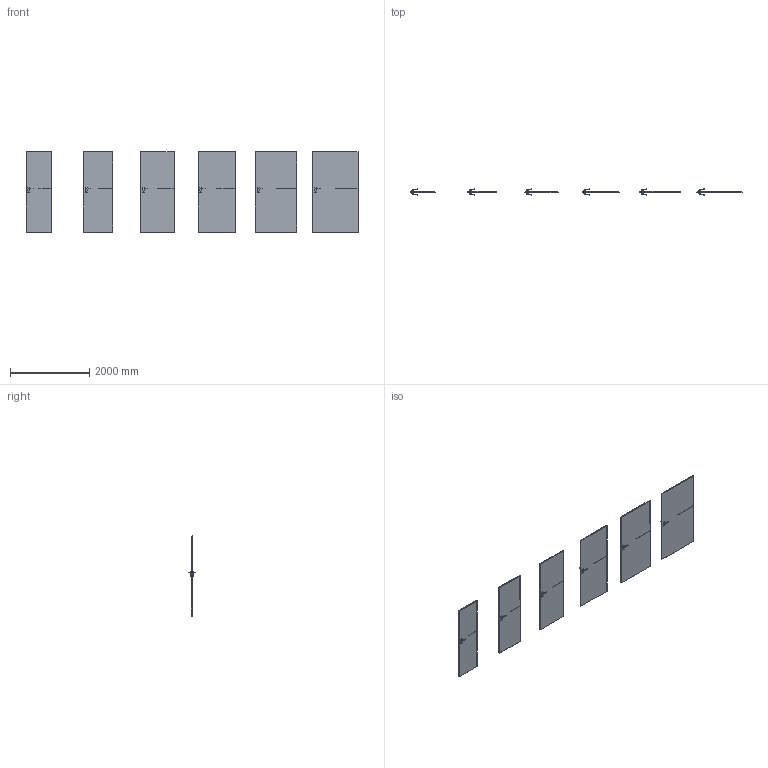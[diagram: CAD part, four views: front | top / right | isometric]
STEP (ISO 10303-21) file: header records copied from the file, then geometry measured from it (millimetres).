
FILE_DESCRIPTION(/* description */ (''),/* implementation_level */ '2;1');
FILE_NAME(/* name */ '049633_A_2-Skrzydło LINE model G.1_ polska norma _PN__ przylgowe..stp',/* time_stamp */ '2024-01-26T10:59:54+01:00',/* author */ (''),/* organization */ (''),/* preprocessor_version */ 'ST-DEVELOPER v16',/* originating_system */ 'SIEMENS PLM Software NX 11.0',/* authorisation */ '');
FILE_SCHEMA (('AUTOMOTIVE_DESIGN { 1 0 10303 214 3 1 1 1 }'));
Length unit declared in the file: millimetre
Products named in the file (1): bkni4C30E0B7uyre
Bounding box: 8394 x 153.27 x 2030 mm (x, y, z)
Volume: 418562510.4 mm3; surface area: 23569249.3 mm2
Topology: 44 solids, 44 shells, 1212 faces, 2844 edges, 1600 vertices
Faces by surface type: plane 562, cylinder 290, bspline 192, sphere 168
Entity records: 39936 total; most frequent: CARTESIAN_POINT 13913, ORIENTED_EDGE 5352, DIRECTION 5130, EDGE_CURVE 2676, AXIS2_PLACEMENT_3D 1793, VERTEX_POINT 1600, LINE 1544, VECTOR 1544
